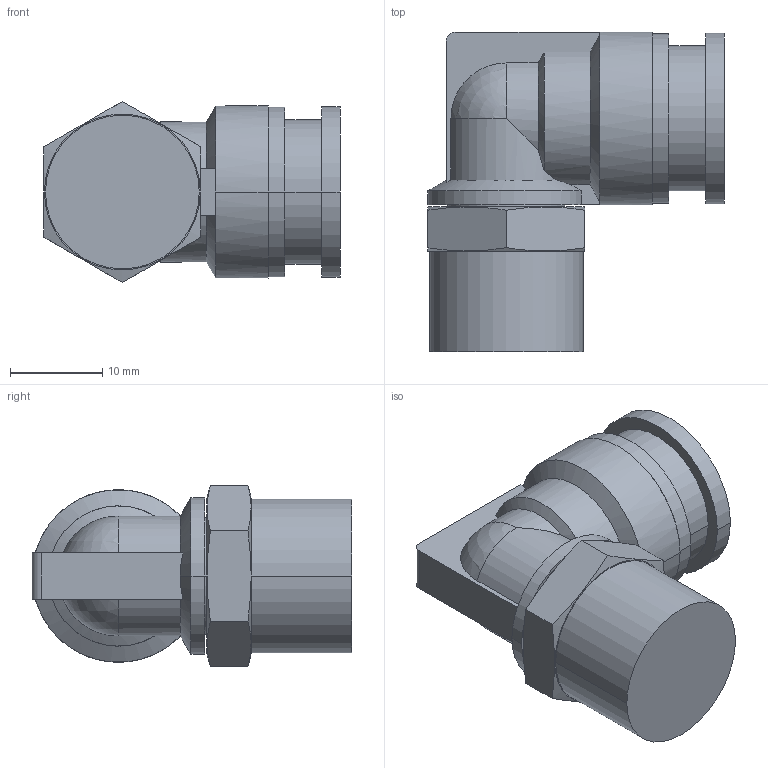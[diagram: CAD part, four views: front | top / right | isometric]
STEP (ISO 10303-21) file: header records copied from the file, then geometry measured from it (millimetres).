
FILE_DESCRIPTION( ( '' ), '1' );
FILE_NAME( 'G:/SMC狟婥/KQ2L12-03AS.stp', '2023-03-07T03:06:36', ( '' ), ( '' ), ' ', ' ', ' ' );
FILE_SCHEMA( ( 'CONFIG_CONTROL_DESIGN' ) );
Length unit declared in the file: millimetre
Products named in the file (1): 1
Bounding box: 32.1 x 34.65 x 19.63 mm (x, y, z)
Volume: 8154.2 mm3; surface area: 4262.5 mm2
Topology: 1 solids, 1 shells, 60 faces, 146 edges, 93 vertices
Faces by surface type: plane 25, cylinder 23, cone 10, sphere 2
Entity records: 1796 total; most frequent: CARTESIAN_POINT 392, DIRECTION 290, ORIENTED_EDGE 288, EDGE_CURVE 144, AXIS2_PLACEMENT_3D 119, VERTEX_POINT 93, EDGE_LOOP 67, ADVANCED_FACE 60
